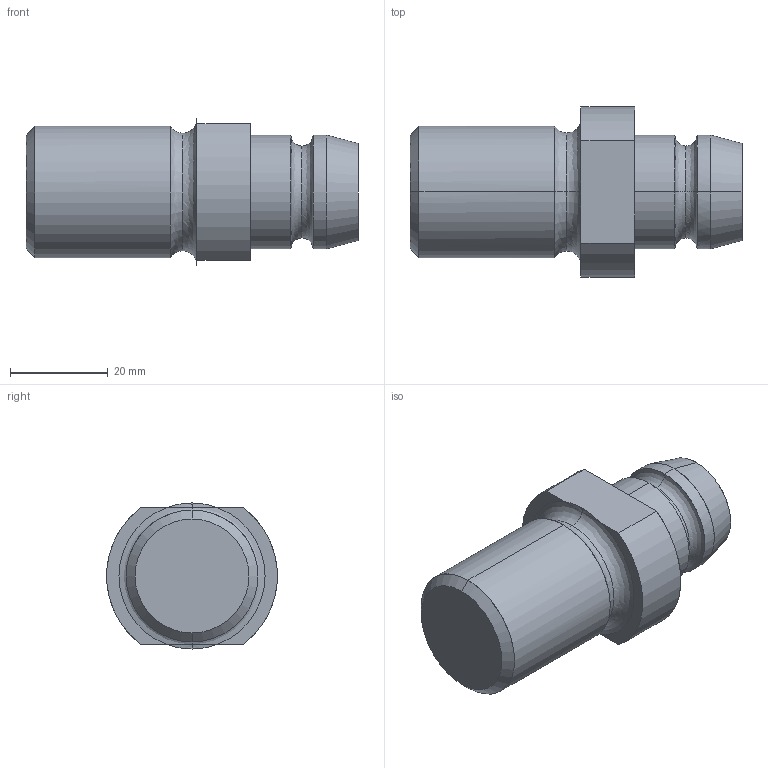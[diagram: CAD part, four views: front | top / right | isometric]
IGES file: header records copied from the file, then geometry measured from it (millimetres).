
Start section: START RECORD GO HERE.
Global section: file name: AGS3411M27.igs; native system: DASSAULT SYSTEMES CATIA V5 R20 - www.3ds.com; preprocessor: CATIA Version 5 Release 20 ; author: Utente; organization: NB04-ASUS; date: 20210221.202518; units: millimetre
Bounding box: 68 x 34.98 x 29.92 mm (x, y, z)
Surface area: 7426.4 mm2 (no closed solid volume)
Topology: 0 solids, 0 shells, 29 faces, 152 edges, 152 vertices
Faces by surface type: revolution 20, plane 9
